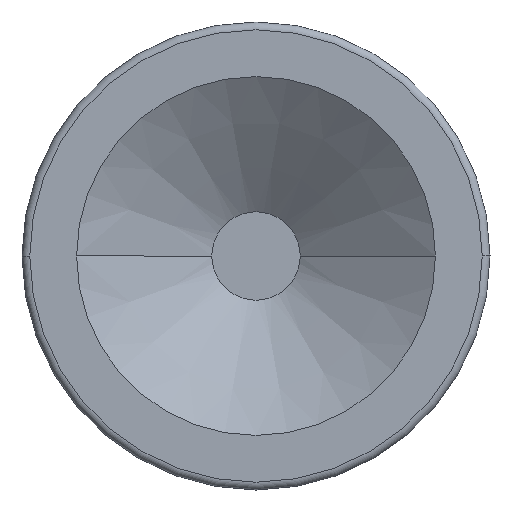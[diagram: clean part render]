
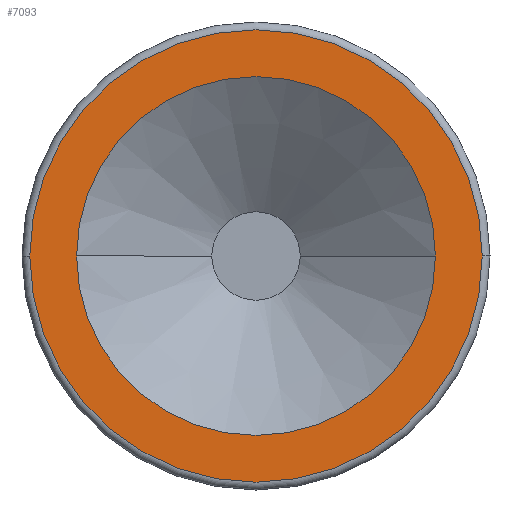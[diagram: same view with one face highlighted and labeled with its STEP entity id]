
A CAD part, front view. The second image highlights one B-rep face of the part: STEP entity #7093.
In plain terms, the highlighted planar face has unit normal (0, -1, 0).
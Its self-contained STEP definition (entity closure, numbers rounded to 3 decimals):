
#51 = CIRCLE ( 'NONE', #9551, 29. ) ;
#64 = DIRECTION ( 'NONE',  ( 0., 1., 0. ) ) ;
#992 = CIRCLE ( 'NONE', #5481, 23. ) ;
#1048 = EDGE_CURVE ( 'NONE', #6693, #9251, #4900, .T. ) ;
#2597 = CARTESIAN_POINT ( 'NONE',  ( 0., -19., 0. ) ) ;
#3037 = EDGE_CURVE ( 'NONE', #7771, #4896, #992, .T. ) ;
#3280 = FACE_OUTER_BOUND ( 'NONE', #10820, .T. ) ;
#3292 = EDGE_CURVE ( 'NONE', #9251, #6693, #51, .T. ) ;
#3577 = ORIENTED_EDGE ( 'NONE', *, *, #9032, .T. ) ;
#3880 = DIRECTION ( 'NONE',  ( -1., 0., 0. ) ) ;
#4366 = CARTESIAN_POINT ( 'NONE',  ( 23., -19., 0. ) ) ;
#4691 = ORIENTED_EDGE ( 'NONE', *, *, #3292, .T. ) ;
#4816 = CIRCLE ( 'NONE', #10768, 23. ) ;
#4896 = VERTEX_POINT ( 'NONE', #4366 ) ;
#4900 = CIRCLE ( 'NONE', #6367, 29. ) ;
#5151 = DIRECTION ( 'NONE',  ( 0., -1., 0. ) ) ;
#5302 = DIRECTION ( 'NONE',  ( -1., 0., 0. ) ) ;
#5481 = AXIS2_PLACEMENT_3D ( 'NONE', #2597, #64, #11217 ) ;
#5836 = FACE_BOUND ( 'NONE', #12098, .T. ) ;
#5878 = DIRECTION ( 'NONE',  ( -1., 0., 0. ) ) ;
#5882 = ORIENTED_EDGE ( 'NONE', *, *, #3037, .T. ) ;
#6156 = AXIS2_PLACEMENT_3D ( 'NONE', #7850, #6563, #5302 ) ;
#6367 = AXIS2_PLACEMENT_3D ( 'NONE', #6413, #5151, #3880 ) ;
#6413 = CARTESIAN_POINT ( 'NONE',  ( 0., -19., 0. ) ) ;
#6563 = DIRECTION ( 'NONE',  ( 0., 1., 0. ) ) ;
#6693 = VERTEX_POINT ( 'NONE', #9948 ) ;
#7093 = ADVANCED_FACE ( 'NONE', ( #3280, #5836 ), #9124, .F. ) ;
#7142 = DIRECTION ( 'NONE',  ( -1., 0., 0. ) ) ;
#7163 = DIRECTION ( 'NONE',  ( 0., -1., 0. ) ) ;
#7589 = CARTESIAN_POINT ( 'NONE',  ( -29., -19., 0. ) ) ;
#7771 = VERTEX_POINT ( 'NONE', #8141 ) ;
#7850 = CARTESIAN_POINT ( 'NONE',  ( 23., -19., 0. ) ) ;
#8141 = CARTESIAN_POINT ( 'NONE',  ( -23., -19., 0. ) ) ;
#8418 = DIRECTION ( 'NONE',  ( 0., 1., 0. ) ) ;
#9032 = EDGE_CURVE ( 'NONE', #4896, #7771, #4816, .T. ) ;
#9124 = PLANE ( 'NONE',  #6156 ) ;
#9251 = VERTEX_POINT ( 'NONE', #7589 ) ;
#9551 = AXIS2_PLACEMENT_3D ( 'NONE', #9705, #7163, #5878 ) ;
#9683 = CARTESIAN_POINT ( 'NONE',  ( 0., -19., 0. ) ) ;
#9705 = CARTESIAN_POINT ( 'NONE',  ( 0., -19., 0. ) ) ;
#9948 = CARTESIAN_POINT ( 'NONE',  ( 29., -19., 0. ) ) ;
#10768 = AXIS2_PLACEMENT_3D ( 'NONE', #9683, #8418, #7142 ) ;
#10820 = EDGE_LOOP ( 'NONE', ( #4691, #10903 ) ) ;
#10903 = ORIENTED_EDGE ( 'NONE', *, *, #1048, .T. ) ;
#11217 = DIRECTION ( 'NONE',  ( -1., 0., 0. ) ) ;
#12098 = EDGE_LOOP ( 'NONE', ( #3577, #5882 ) ) ;
